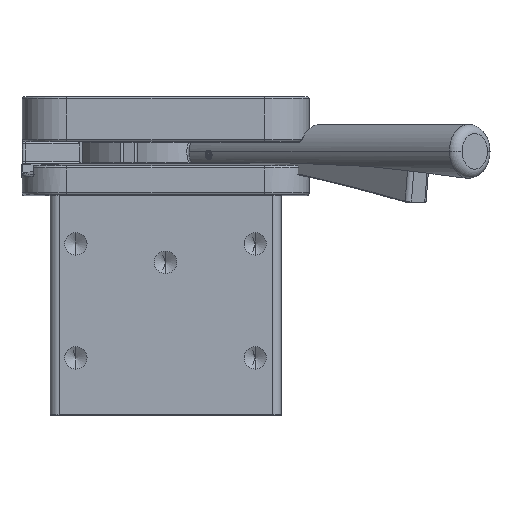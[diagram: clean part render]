
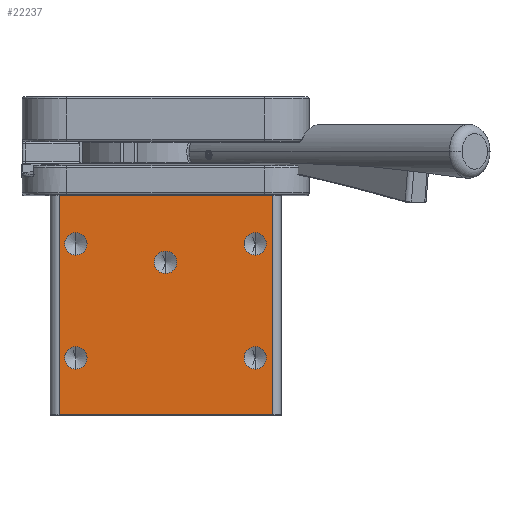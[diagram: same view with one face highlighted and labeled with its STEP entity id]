
A CAD part, top view. The second image highlights one B-rep face of the part: STEP entity #22237.
In plain terms, the highlighted planar face has unit normal (0, 0, 1).
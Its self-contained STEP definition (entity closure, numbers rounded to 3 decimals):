
#451 = AXIS2_PLACEMENT_3D ( 'NONE', #18862, #36492, #32065 ) ;
#527 = ORIENTED_EDGE ( 'NONE', *, *, #7376, .F. ) ;
#702 = PLANE ( 'NONE',  #11549 ) ;
#1099 = DIRECTION ( 'NONE',  ( 0., 1., 0. ) ) ;
#1266 = VERTEX_POINT ( 'NONE', #2825 ) ;
#1765 = VECTOR ( 'NONE', #30587, 1000. ) ;
#2089 = VERTEX_POINT ( 'NONE', #28356 ) ;
#2825 = CARTESIAN_POINT ( 'NONE',  ( -19.147, 7.853, 39.672 ) ) ;
#3037 = DIRECTION ( 'NONE',  ( 0., 0., 1. ) ) ;
#3431 = CARTESIAN_POINT ( 'NONE',  ( -22.897, 21.253, 39.672 ) ) ;
#3798 = DIRECTION ( 'NONE',  ( 0., 1., 0. ) ) ;
#3871 = ORIENTED_EDGE ( 'NONE', *, *, #5350, .F. ) ;
#3989 = EDGE_CURVE ( 'NONE', #5568, #39043, #4609, .T. ) ;
#4205 = LINE ( 'NONE', #38678, #28879 ) ;
#4609 = CIRCLE ( 'NONE', #42866, 2.5 ) ;
#5343 = EDGE_CURVE ( 'NONE', #1266, #39290, #23443, .T. ) ;
#5350 = EDGE_CURVE ( 'NONE', #19856, #44736, #50145, .T. ) ;
#5554 = DIRECTION ( 'NONE',  ( 0., -1., 0. ) ) ;
#5568 = VERTEX_POINT ( 'NONE', #24975 ) ;
#7184 = ORIENTED_EDGE ( 'NONE', *, *, #9572, .F. ) ;
#7376 = EDGE_CURVE ( 'NONE', #52099, #24888, #47118, .T. ) ;
#7428 = EDGE_LOOP ( 'NONE', ( #25393, #527 ) ) ;
#8600 = CARTESIAN_POINT ( 'NONE',  ( 0.853, 6.253, 39.672 ) ) ;
#8634 = VECTOR ( 'NONE', #3798, 1000. ) ;
#8950 = DIRECTION ( 'NONE',  ( 0., 0., 1. ) ) ;
#9459 = DIRECTION ( 'NONE',  ( 0., 0., -1. ) ) ;
#9572 = EDGE_CURVE ( 'NONE', #39043, #5568, #30775, .T. ) ;
#9606 = VECTOR ( 'NONE', #18000, 1000. ) ;
#9881 = CARTESIAN_POINT ( 'NONE',  ( 20.853, -15.047, 39.672 ) ) ;
#11549 = AXIS2_PLACEMENT_3D ( 'NONE', #31334, #9459, #1099 ) ;
#11553 = EDGE_LOOP ( 'NONE', ( #7184, #54633 ) ) ;
#12384 = CARTESIAN_POINT ( 'NONE',  ( -19.147, 10.353, 39.672 ) ) ;
#13178 = VERTEX_POINT ( 'NONE', #3431 ) ;
#13356 = LINE ( 'NONE', #18112, #1765 ) ;
#13475 = EDGE_LOOP ( 'NONE', ( #22170, #14377 ) ) ;
#13603 = EDGE_CURVE ( 'NONE', #2089, #13178, #4205, .T. ) ;
#14377 = ORIENTED_EDGE ( 'NONE', *, *, #50217, .F. ) ;
#14419 = LINE ( 'NONE', #42909, #9606 ) ;
#14918 = DIRECTION ( 'NONE',  ( 0., 0., 1. ) ) ;
#15848 = ORIENTED_EDGE ( 'NONE', *, *, #36634, .F. ) ;
#16939 = EDGE_CURVE ( 'NONE', #20073, #33258, #26616, .T. ) ;
#18000 = DIRECTION ( 'NONE',  ( 0., -1., 0. ) ) ;
#18112 = CARTESIAN_POINT ( 'NONE',  ( 26.603, -27.747, 39.672 ) ) ;
#18252 = CARTESIAN_POINT ( 'NONE',  ( -19.147, 12.853, 39.672 ) ) ;
#18750 = FACE_OUTER_BOUND ( 'NONE', #52954, .T. ) ;
#18861 = DIRECTION ( 'NONE',  ( 0., 0., 1. ) ) ;
#18862 = CARTESIAN_POINT ( 'NONE',  ( 20.853, 10.353, 39.672 ) ) ;
#19856 = VERTEX_POINT ( 'NONE', #25462 ) ;
#20073 = VERTEX_POINT ( 'NONE', #49320 ) ;
#20252 = VERTEX_POINT ( 'NONE', #51029 ) ;
#20444 = DIRECTION ( 'NONE',  ( 0., 0., 1. ) ) ;
#20793 = DIRECTION ( 'NONE',  ( 0., -1., 0. ) ) ;
#21814 = DIRECTION ( 'NONE',  ( -1., 0., 0. ) ) ;
#22170 = ORIENTED_EDGE ( 'NONE', *, *, #5343, .F. ) ;
#22237 = ADVANCED_FACE ( 'NONE', ( #37261, #42771, #47550, #41390, #34532, #18750 ), #702, .F. ) ;
#23405 = AXIS2_PLACEMENT_3D ( 'NONE', #42276, #3037, #34052 ) ;
#23443 = CIRCLE ( 'NONE', #28962, 2.5 ) ;
#23592 = AXIS2_PLACEMENT_3D ( 'NONE', #12384, #20444, #47082 ) ;
#24888 = VERTEX_POINT ( 'NONE', #51647 ) ;
#24975 = CARTESIAN_POINT ( 'NONE',  ( 20.853, -12.547, 39.672 ) ) ;
#25393 = ORIENTED_EDGE ( 'NONE', *, *, #36717, .F. ) ;
#25426 = DIRECTION ( 'NONE',  ( 0., 0., 1. ) ) ;
#25462 = CARTESIAN_POINT ( 'NONE',  ( 0.853, 8.753, 39.672 ) ) ;
#26616 = CIRCLE ( 'NONE', #36679, 2.5 ) ;
#27887 = ORIENTED_EDGE ( 'NONE', *, *, #16939, .F. ) ;
#28356 = CARTESIAN_POINT ( 'NONE',  ( 24.603, 21.253, 39.672 ) ) ;
#28879 = VECTOR ( 'NONE', #21814, 1000. ) ;
#28962 = AXIS2_PLACEMENT_3D ( 'NONE', #35205, #8950, #52842 ) ;
#29589 = EDGE_CURVE ( 'NONE', #44736, #19856, #53679, .T. ) ;
#30587 = DIRECTION ( 'NONE',  ( -1., 0., 0. ) ) ;
#30775 = CIRCLE ( 'NONE', #42799, 2.5 ) ;
#30802 = AXIS2_PLACEMENT_3D ( 'NONE', #45087, #18861, #53169 ) ;
#30914 = ORIENTED_EDGE ( 'NONE', *, *, #13603, .T. ) ;
#31334 = CARTESIAN_POINT ( 'NONE',  ( 26.603, 21.253, 39.672 ) ) ;
#32065 = DIRECTION ( 'NONE',  ( 0., -1., 0. ) ) ;
#33258 = VERTEX_POINT ( 'NONE', #51892 ) ;
#33270 = EDGE_LOOP ( 'NONE', ( #27887, #52959 ) ) ;
#33537 = ORIENTED_EDGE ( 'NONE', *, *, #29589, .F. ) ;
#33794 = CARTESIAN_POINT ( 'NONE',  ( 20.853, -17.547, 39.672 ) ) ;
#34052 = DIRECTION ( 'NONE',  ( 0., -1., 0. ) ) ;
#34532 = FACE_BOUND ( 'NONE', #7428, .T. ) ;
#35205 = CARTESIAN_POINT ( 'NONE',  ( -19.147, 10.353, 39.672 ) ) ;
#35207 = EDGE_CURVE ( 'NONE', #13178, #47397, #14419, .T. ) ;
#35546 = EDGE_LOOP ( 'NONE', ( #33537, #3871 ) ) ;
#36097 = DIRECTION ( 'NONE',  ( 0., -1., 0. ) ) ;
#36492 = DIRECTION ( 'NONE',  ( 0., 0., 1. ) ) ;
#36634 = EDGE_CURVE ( 'NONE', #20252, #47397, #13356, .T. ) ;
#36679 = AXIS2_PLACEMENT_3D ( 'NONE', #53709, #45447, #36097 ) ;
#36717 = EDGE_CURVE ( 'NONE', #24888, #52099, #53125, .T. ) ;
#37261 = FACE_BOUND ( 'NONE', #35546, .T. ) ;
#37346 = CARTESIAN_POINT ( 'NONE',  ( 0.853, 3.753, 39.672 ) ) ;
#37843 = CARTESIAN_POINT ( 'NONE',  ( 20.853, -15.047, 39.672 ) ) ;
#38622 = CARTESIAN_POINT ( 'NONE',  ( 24.603, 21.253, 39.672 ) ) ;
#38678 = CARTESIAN_POINT ( 'NONE',  ( 26.603, 21.253, 39.672 ) ) ;
#39043 = VERTEX_POINT ( 'NONE', #33794 ) ;
#39290 = VERTEX_POINT ( 'NONE', #18252 ) ;
#40677 = ORIENTED_EDGE ( 'NONE', *, *, #35207, .T. ) ;
#41139 = CARTESIAN_POINT ( 'NONE',  ( -19.147, -15.047, 39.672 ) ) ;
#41390 = FACE_BOUND ( 'NONE', #11553, .T. ) ;
#41482 = DIRECTION ( 'NONE',  ( 0., -1., 0. ) ) ;
#42001 = CARTESIAN_POINT ( 'NONE',  ( -22.897, -27.747, 39.672 ) ) ;
#42276 = CARTESIAN_POINT ( 'NONE',  ( 0.853, 6.253, 39.672 ) ) ;
#42660 = EDGE_CURVE ( 'NONE', #33258, #20073, #51785, .T. ) ;
#42771 = FACE_BOUND ( 'NONE', #13475, .T. ) ;
#42799 = AXIS2_PLACEMENT_3D ( 'NONE', #37843, #25426, #20793 ) ;
#42866 = AXIS2_PLACEMENT_3D ( 'NONE', #9881, #54893, #41482 ) ;
#42909 = CARTESIAN_POINT ( 'NONE',  ( -22.897, 21.253, 39.672 ) ) ;
#43613 = CIRCLE ( 'NONE', #23592, 2.5 ) ;
#43943 = AXIS2_PLACEMENT_3D ( 'NONE', #8600, #56854, #48796 ) ;
#44736 = VERTEX_POINT ( 'NONE', #37346 ) ;
#45087 = CARTESIAN_POINT ( 'NONE',  ( 20.853, 10.353, 39.672 ) ) ;
#45447 = DIRECTION ( 'NONE',  ( 0., 0., 1. ) ) ;
#46984 = AXIS2_PLACEMENT_3D ( 'NONE', #41139, #14918, #5554 ) ;
#47082 = DIRECTION ( 'NONE',  ( 0., -1., 0. ) ) ;
#47118 = CIRCLE ( 'NONE', #451, 2.5 ) ;
#47397 = VERTEX_POINT ( 'NONE', #42001 ) ;
#47550 = FACE_BOUND ( 'NONE', #33270, .T. ) ;
#48796 = DIRECTION ( 'NONE',  ( 0., -1., 0. ) ) ;
#49268 = ORIENTED_EDGE ( 'NONE', *, *, #54668, .T. ) ;
#49320 = CARTESIAN_POINT ( 'NONE',  ( -19.147, -17.547, 39.672 ) ) ;
#50145 = CIRCLE ( 'NONE', #43943, 2.5 ) ;
#50217 = EDGE_CURVE ( 'NONE', #39290, #1266, #43613, .T. ) ;
#51029 = CARTESIAN_POINT ( 'NONE',  ( 24.603, -27.747, 39.672 ) ) ;
#51130 = LINE ( 'NONE', #38622, #8634 ) ;
#51647 = CARTESIAN_POINT ( 'NONE',  ( 20.853, 7.853, 39.672 ) ) ;
#51785 = CIRCLE ( 'NONE', #46984, 2.5 ) ;
#51892 = CARTESIAN_POINT ( 'NONE',  ( -19.147, -12.547, 39.672 ) ) ;
#52099 = VERTEX_POINT ( 'NONE', #53385 ) ;
#52842 = DIRECTION ( 'NONE',  ( 0., -1., 0. ) ) ;
#52954 = EDGE_LOOP ( 'NONE', ( #15848, #49268, #30914, #40677 ) ) ;
#52959 = ORIENTED_EDGE ( 'NONE', *, *, #42660, .F. ) ;
#53125 = CIRCLE ( 'NONE', #30802, 2.5 ) ;
#53169 = DIRECTION ( 'NONE',  ( 0., -1., 0. ) ) ;
#53385 = CARTESIAN_POINT ( 'NONE',  ( 20.853, 12.853, 39.672 ) ) ;
#53679 = CIRCLE ( 'NONE', #23405, 2.5 ) ;
#53709 = CARTESIAN_POINT ( 'NONE',  ( -19.147, -15.047, 39.672 ) ) ;
#54633 = ORIENTED_EDGE ( 'NONE', *, *, #3989, .F. ) ;
#54668 = EDGE_CURVE ( 'NONE', #20252, #2089, #51130, .T. ) ;
#54893 = DIRECTION ( 'NONE',  ( 0., 0., 1. ) ) ;
#56854 = DIRECTION ( 'NONE',  ( 0., 0., 1. ) ) ;
